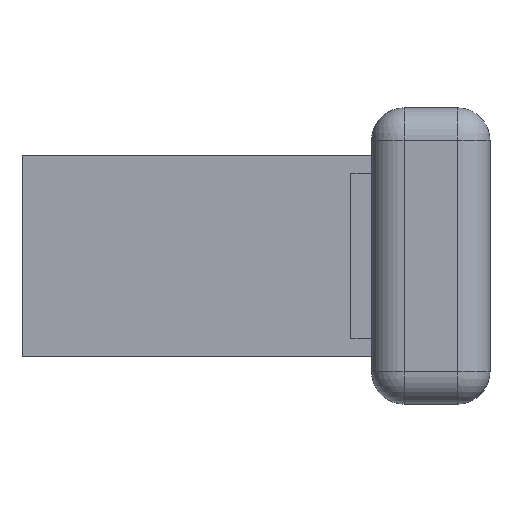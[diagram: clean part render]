
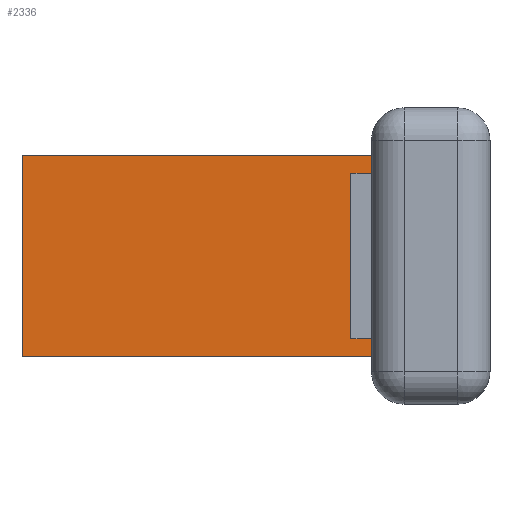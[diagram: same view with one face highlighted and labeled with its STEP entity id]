
A CAD part, front view. The second image highlights one B-rep face of the part: STEP entity #2336.
In plain terms, the highlighted planar face has unit normal (0, -1, 0).
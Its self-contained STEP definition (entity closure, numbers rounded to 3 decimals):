
#989 = PLANE('',#990);
#990 = AXIS2_PLACEMENT_3D('',#991,#992,#993);
#991 = CARTESIAN_POINT('',(31.15,60.,12.5));
#992 = DIRECTION('',(-1.,-0.,0.));
#993 = DIRECTION('',(0.,0.,-1.));
#1575 = VERTEX_POINT('',#1576);
#1576 = CARTESIAN_POINT('',(31.15,62.4,13.3));
#1590 = PLANE('',#1591);
#1591 = AXIS2_PLACEMENT_3D('',#1592,#1593,#1594);
#1592 = CARTESIAN_POINT('',(31.35,62.4,13.3));
#1593 = DIRECTION('',(0.,0.,1.));
#1594 = DIRECTION('',(1.,0.,0.));
#1602 = EDGE_CURVE('',#1575,#1603,#1605,.T.);
#1603 = VERTEX_POINT('',#1604);
#1604 = CARTESIAN_POINT('',(31.15,62.4,16.7));
#1605 = SURFACE_CURVE('',#1606,(#1610,#1617),.PCURVE_S1.);
#1606 = LINE('',#1607,#1608);
#1607 = CARTESIAN_POINT('',(31.15,62.4,12.9));
#1608 = VECTOR('',#1609,1.);
#1609 = DIRECTION('',(-0.,-0.,1.));
#1610 = PCURVE('',#989,#1611);
#1611 = DEFINITIONAL_REPRESENTATION('',(#1612),#1616);
#1612 = LINE('',#1613,#1614);
#1613 = CARTESIAN_POINT('',(-0.4,-2.4));
#1614 = VECTOR('',#1615,1.);
#1615 = DIRECTION('',(-1.,-0.));
#1616 = ( GEOMETRIC_REPRESENTATION_CONTEXT(2) 
PARAMETRIC_REPRESENTATION_CONTEXT() REPRESENTATION_CONTEXT('2D SPACE',''
  ) );
#1617 = PCURVE('',#1618,#1623);
#1618 = PLANE('',#1619);
#1619 = AXIS2_PLACEMENT_3D('',#1620,#1621,#1622);
#1620 = CARTESIAN_POINT('',(31.35,62.4,13.3));
#1621 = DIRECTION('',(-0.,1.,0.));
#1622 = DIRECTION('',(0.,0.,-1.));
#1623 = DEFINITIONAL_REPRESENTATION('',(#1624),#1628);
#1624 = LINE('',#1625,#1626);
#1625 = CARTESIAN_POINT('',(0.4,0.2));
#1626 = VECTOR('',#1627,1.);
#1627 = DIRECTION('',(-1.,-0.));
#1628 = ( GEOMETRIC_REPRESENTATION_CONTEXT(2) 
PARAMETRIC_REPRESENTATION_CONTEXT() REPRESENTATION_CONTEXT('2D SPACE',''
  ) );
#1646 = PLANE('',#1647);
#1647 = AXIS2_PLACEMENT_3D('',#1648,#1649,#1650);
#1648 = CARTESIAN_POINT('',(31.35,62.4,16.7));
#1649 = DIRECTION('',(0.,0.,1.));
#1650 = DIRECTION('',(1.,0.,0.));
#2125 = EDGE_CURVE('',#1575,#2126,#2128,.T.);
#2126 = VERTEX_POINT('',#2127);
#2127 = CARTESIAN_POINT('',(25.25,62.4,13.3));
#2128 = SURFACE_CURVE('',#2129,(#2133,#2140),.PCURVE_S1.);
#2129 = LINE('',#2130,#2131);
#2130 = CARTESIAN_POINT('',(31.35,62.4,13.3));
#2131 = VECTOR('',#2132,1.);
#2132 = DIRECTION('',(-1.,-0.,0.));
#2133 = PCURVE('',#1590,#2134);
#2134 = DEFINITIONAL_REPRESENTATION('',(#2135),#2139);
#2135 = LINE('',#2136,#2137);
#2136 = CARTESIAN_POINT('',(0.,-0.));
#2137 = VECTOR('',#2138,1.);
#2138 = DIRECTION('',(-1.,0.));
#2139 = ( GEOMETRIC_REPRESENTATION_CONTEXT(2) 
PARAMETRIC_REPRESENTATION_CONTEXT() REPRESENTATION_CONTEXT('2D SPACE',''
  ) );
#2140 = PCURVE('',#1618,#2141);
#2141 = DEFINITIONAL_REPRESENTATION('',(#2142),#2146);
#2142 = LINE('',#2143,#2144);
#2143 = CARTESIAN_POINT('',(-0.,-0.));
#2144 = VECTOR('',#2145,1.);
#2145 = DIRECTION('',(-0.,1.));
#2146 = ( GEOMETRIC_REPRESENTATION_CONTEXT(2) 
PARAMETRIC_REPRESENTATION_CONTEXT() REPRESENTATION_CONTEXT('2D SPACE',''
  ) );
#2162 = PLANE('',#2163);
#2163 = AXIS2_PLACEMENT_3D('',#2164,#2165,#2166);
#2164 = CARTESIAN_POINT('',(25.25,62.4,13.3));
#2165 = DIRECTION('',(-1.,-0.,0.));
#2166 = DIRECTION('',(0.,0.,-1.));
#2263 = EDGE_CURVE('',#1603,#2264,#2266,.T.);
#2264 = VERTEX_POINT('',#2265);
#2265 = CARTESIAN_POINT('',(25.25,62.4,16.7));
#2266 = SURFACE_CURVE('',#2267,(#2271,#2278),.PCURVE_S1.);
#2267 = LINE('',#2268,#2269);
#2268 = CARTESIAN_POINT('',(31.35,62.4,16.7));
#2269 = VECTOR('',#2270,1.);
#2270 = DIRECTION('',(-1.,-0.,0.));
#2271 = PCURVE('',#1646,#2272);
#2272 = DEFINITIONAL_REPRESENTATION('',(#2273),#2277);
#2273 = LINE('',#2274,#2275);
#2274 = CARTESIAN_POINT('',(0.,-0.));
#2275 = VECTOR('',#2276,1.);
#2276 = DIRECTION('',(-1.,0.));
#2277 = ( GEOMETRIC_REPRESENTATION_CONTEXT(2) 
PARAMETRIC_REPRESENTATION_CONTEXT() REPRESENTATION_CONTEXT('2D SPACE',''
  ) );
#2278 = PCURVE('',#1618,#2279);
#2279 = DEFINITIONAL_REPRESENTATION('',(#2280),#2284);
#2280 = LINE('',#2281,#2282);
#2281 = CARTESIAN_POINT('',(-3.4,-0.));
#2282 = VECTOR('',#2283,1.);
#2283 = DIRECTION('',(-0.,1.));
#2284 = ( GEOMETRIC_REPRESENTATION_CONTEXT(2) 
PARAMETRIC_REPRESENTATION_CONTEXT() REPRESENTATION_CONTEXT('2D SPACE',''
  ) );
#2336 = ADVANCED_FACE('',(#2337),#1618,.F.);
#2337 = FACE_BOUND('',#2338,.T.);
#2338 = EDGE_LOOP('',(#2339,#2340,#2341,#2342));
#2339 = ORIENTED_EDGE('',*,*,#2125,.F.);
#2340 = ORIENTED_EDGE('',*,*,#1602,.T.);
#2341 = ORIENTED_EDGE('',*,*,#2263,.T.);
#2342 = ORIENTED_EDGE('',*,*,#2343,.F.);
#2343 = EDGE_CURVE('',#2126,#2264,#2344,.T.);
#2344 = SURFACE_CURVE('',#2345,(#2349,#2356),.PCURVE_S1.);
#2345 = LINE('',#2346,#2347);
#2346 = CARTESIAN_POINT('',(25.25,62.4,13.3));
#2347 = VECTOR('',#2348,1.);
#2348 = DIRECTION('',(0.,0.,1.));
#2349 = PCURVE('',#1618,#2350);
#2350 = DEFINITIONAL_REPRESENTATION('',(#2351),#2355);
#2351 = LINE('',#2352,#2353);
#2352 = CARTESIAN_POINT('',(-0.,6.1));
#2353 = VECTOR('',#2354,1.);
#2354 = DIRECTION('',(-1.,0.));
#2355 = ( GEOMETRIC_REPRESENTATION_CONTEXT(2) 
PARAMETRIC_REPRESENTATION_CONTEXT() REPRESENTATION_CONTEXT('2D SPACE',''
  ) );
#2356 = PCURVE('',#2162,#2357);
#2357 = DEFINITIONAL_REPRESENTATION('',(#2358),#2362);
#2358 = LINE('',#2359,#2360);
#2359 = CARTESIAN_POINT('',(-0.,-0.));
#2360 = VECTOR('',#2361,1.);
#2361 = DIRECTION('',(-1.,-0.));
#2362 = ( GEOMETRIC_REPRESENTATION_CONTEXT(2) 
PARAMETRIC_REPRESENTATION_CONTEXT() REPRESENTATION_CONTEXT('2D SPACE',''
  ) );
